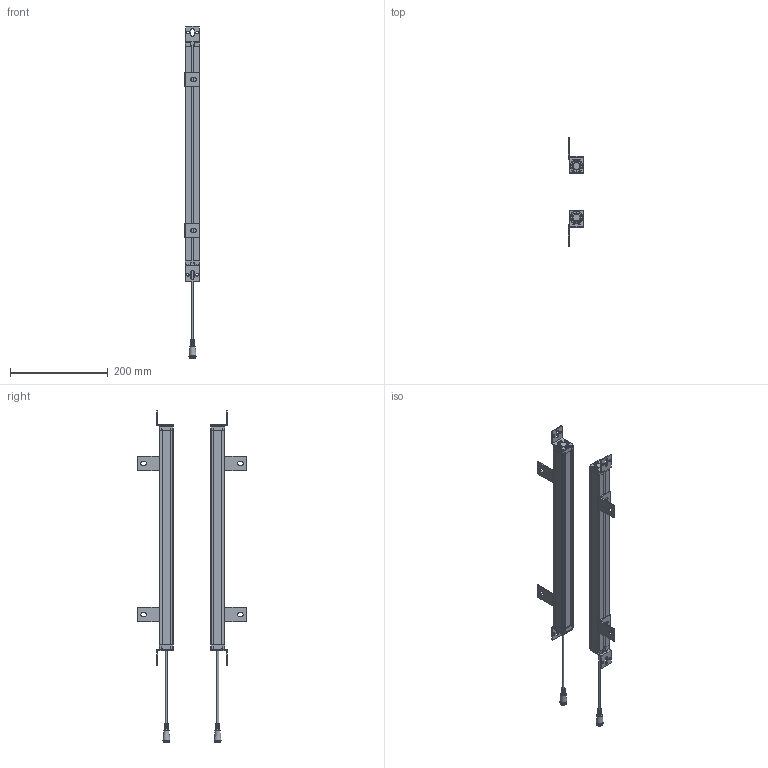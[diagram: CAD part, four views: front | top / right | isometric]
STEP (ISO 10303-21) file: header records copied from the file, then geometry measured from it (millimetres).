
FILE_DESCRIPTION(/* description */ (''),/* implementation_level */ '2;1');
FILE_NAME(/* name */ '2220（29x30）.stp',/* time_stamp */ '2023-04-28T14:47:07+08:00',/* author */ (''),/* organization */ (''),/* preprocessor_version */ 'ST-DEVELOPER v16.7',/* originating_system */ 'SIEMENS PLM Software NX 12.0',/* authorisation */ '');
FILE_SCHEMA (('AUTOMOTIVE_DESIGN { 1 0 10303 214 3 1 1 1 }'));
Products named in the file (1): 3020（29x30）_stp
Bounding box: 32.03 x 223.99 x 681 mm (x, y, z)
Volume: 314402.3 mm3; surface area: 327544.2 mm2
Topology: 34 solids, 34 shells, 1610 faces, 4267 edges, 2771 vertices
Faces by surface type: plane 750, cylinder 648, bspline 88, sphere 36, cone 36, torus 32, extrusion 20
Full cylindrical faces by diameter (mm): 1.533 x6, 4.4 x4, 9 x2, 12.5 x2
Entity records: 56427 total; most frequent: CARTESIAN_POINT 16064, DIRECTION 8330, ORIENTED_EDGE 8324, EDGE_CURVE 4162, AXIS2_PLACEMENT_3D 2918, VERTEX_POINT 2696, VECTOR 2494, LINE 2474
